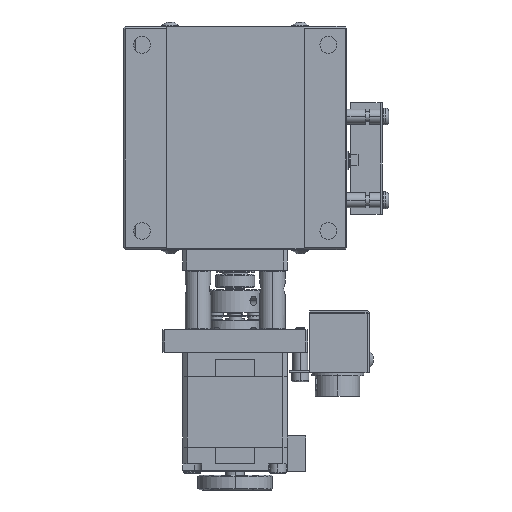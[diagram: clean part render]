
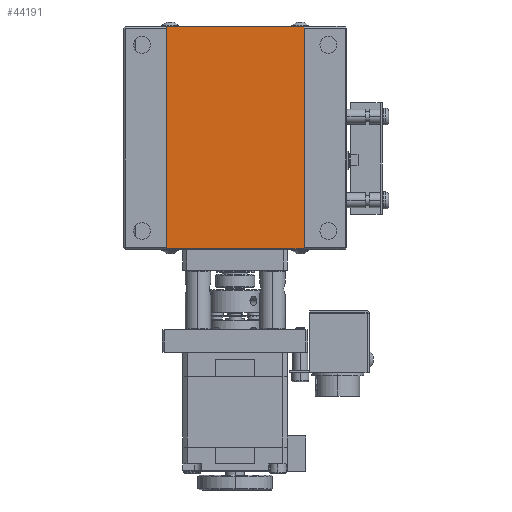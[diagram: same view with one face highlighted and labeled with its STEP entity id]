
A CAD part, front view. The second image highlights one B-rep face of the part: STEP entity #44191.
In plain terms, the highlighted planar face has unit normal (0, -1, 0).
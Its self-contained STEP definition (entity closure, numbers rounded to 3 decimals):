
#1735 = EDGE_LOOP ( 'NONE', ( #27392, #57032, #19887, #33470 ) ) ;
#1836 = VECTOR ( 'NONE', #47953, 1000. ) ;
#2082 = VECTOR ( 'NONE', #9000, 1000. ) ;
#3299 = CARTESIAN_POINT ( 'NONE',  ( -33.016, -14.526, 97.578 ) ) ;
#4423 = AXIS2_PLACEMENT_3D ( 'NONE', #16598, #35381, #9152 ) ;
#7661 = DIRECTION ( 'NONE',  ( 1., 0., 0. ) ) ;
#8347 = DIRECTION ( 'NONE',  ( 0., 0., 1. ) ) ;
#8997 = VERTEX_POINT ( 'NONE', #30178 ) ;
#9000 = DIRECTION ( 'NONE',  ( 0., 0., -1. ) ) ;
#9152 = DIRECTION ( 'NONE',  ( -1., 0., 0. ) ) ;
#16598 = CARTESIAN_POINT ( 'NONE',  ( -44.516, -14.526, 37.778 ) ) ;
#17192 = CARTESIAN_POINT ( 'NONE',  ( -44.516, -14.526, 37.978 ) ) ;
#19887 = ORIENTED_EDGE ( 'NONE', *, *, #47522, .T. ) ;
#25376 = CARTESIAN_POINT ( 'NONE',  ( 3.984, -14.526, 37.778 ) ) ;
#27392 = ORIENTED_EDGE ( 'NONE', *, *, #57263, .T. ) ;
#29158 = CARTESIAN_POINT ( 'NONE',  ( -44.516, -14.526, 97.578 ) ) ;
#29539 = CARTESIAN_POINT ( 'NONE',  ( 3.984, -14.526, 37.978 ) ) ;
#30178 = CARTESIAN_POINT ( 'NONE',  ( -33.016, -14.526, 37.978 ) ) ;
#33470 = ORIENTED_EDGE ( 'NONE', *, *, #37892, .T. ) ;
#35381 = DIRECTION ( 'NONE',  ( 0., -1., 0. ) ) ;
#37892 = EDGE_CURVE ( 'NONE', #40210, #48744, #39557, .T. ) ;
#39557 = LINE ( 'NONE', #25376, #52313 ) ;
#39995 = FACE_OUTER_BOUND ( 'NONE', #1735, .T. ) ;
#40210 = VERTEX_POINT ( 'NONE', #29539 ) ;
#44191 = ADVANCED_FACE ( 'NONE', ( #39995 ), #58808, .T. ) ;
#47522 = EDGE_CURVE ( 'NONE', #8997, #40210, #50766, .T. ) ;
#47953 = DIRECTION ( 'NONE',  ( -1., 0., 0. ) ) ;
#48561 = LINE ( 'NONE', #29158, #1836 ) ;
#48744 = VERTEX_POINT ( 'NONE', #59349 ) ;
#50237 = EDGE_CURVE ( 'NONE', #51986, #8997, #60739, .T. ) ;
#50766 = LINE ( 'NONE', #17192, #51904 ) ;
#51904 = VECTOR ( 'NONE', #7661, 1000. ) ;
#51986 = VERTEX_POINT ( 'NONE', #3299 ) ;
#52313 = VECTOR ( 'NONE', #8347, 1000. ) ;
#57032 = ORIENTED_EDGE ( 'NONE', *, *, #50237, .T. ) ;
#57263 = EDGE_CURVE ( 'NONE', #48744, #51986, #48561, .T. ) ;
#58808 = PLANE ( 'NONE',  #4423 ) ;
#59349 = CARTESIAN_POINT ( 'NONE',  ( 3.984, -14.526, 97.578 ) ) ;
#60430 = CARTESIAN_POINT ( 'NONE',  ( -33.016, -14.526, 37.778 ) ) ;
#60739 = LINE ( 'NONE', #60430, #2082 ) ;
